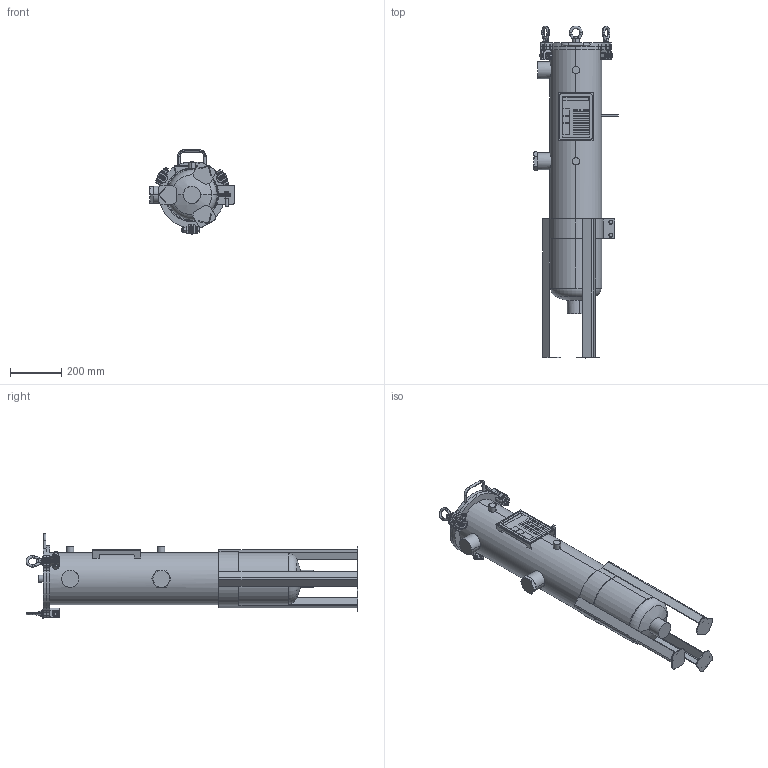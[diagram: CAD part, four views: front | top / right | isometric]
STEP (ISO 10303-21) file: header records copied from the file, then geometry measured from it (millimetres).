
FILE_DESCRIPTION (( 'STEP AP203' ), '1' );
FILE_NAME ('002001-18521.step', '2026-01-06T15:46:23', ( '' ), ( '' ), 'SwSTEP 2.0', 'SolidWorks 2023', '' );
FILE_SCHEMA (( 'CONFIG_CONTROL_DESIGN' ));
Length unit declared in the file: inch
Products named in the file (1): 002001-18521
Bounding box: 329.15 x 1296.58 x 329.95 mm (x, y, z)
Volume: 34251460.8 mm3; surface area: 1252952 mm2
Topology: 8 solids, 8 shells, 850 faces, 2081 edges, 1286 vertices
Faces by surface type: plane 331, cylinder 253, cone 145, bspline 60, torus 59, sphere 2
Entity records: 29157 total; most frequent: CARTESIAN_POINT 9391, DIRECTION 4150, ORIENTED_EDGE 4138, EDGE_CURVE 2069, AXIS2_PLACEMENT_3D 1655, VERTEX_POINT 1286, EDGE_LOOP 925, CIRCLE 864
